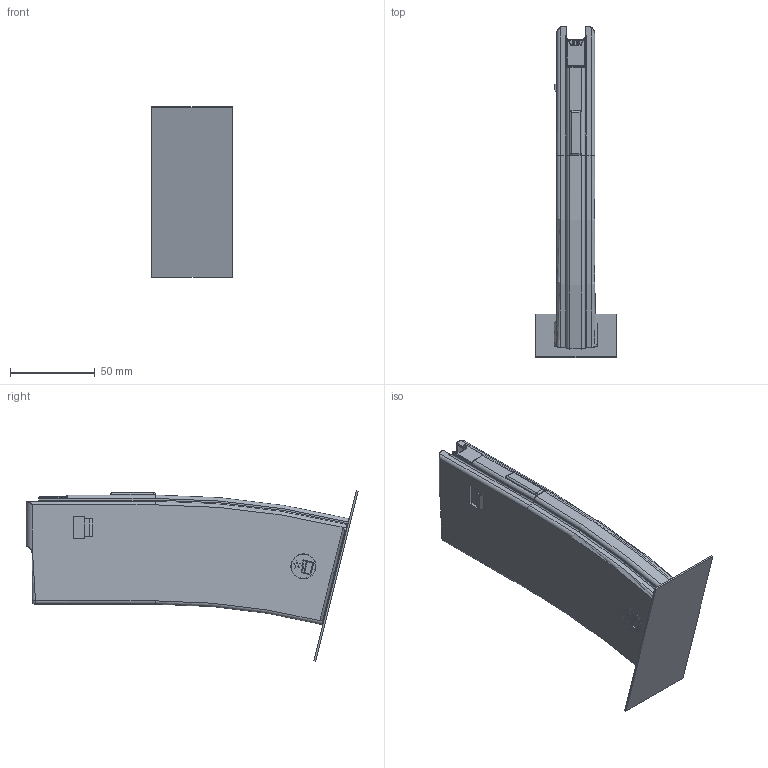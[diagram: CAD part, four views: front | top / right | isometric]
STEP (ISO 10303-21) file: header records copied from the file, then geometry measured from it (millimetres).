
FILE_DESCRIPTION(/* description */ ('STEP AP214'),/* implementation_level */ '2;1');
FILE_NAME(/* name */ 'D:\Ivan''s Printed Mag\Stl\Ivan''s Standard Mag Body.stp',/* time_stamp */ '2019-01-27T20:55:40-06:00',/* author */ ('johne'),/* organization */ (''),/* preprocessor_version */ 'ST-DEVELOPER v16.13',/* originating_system */ 'Autodesk Inventor 2018',/* authorisation */ '');
FILE_SCHEMA (('AUTOMOTIVE_DESIGN { 1 0 10303 214 3 1 1 }'));
Length unit declared in the file: millimetre
Products named in the file (1): doodoo
Bounding box: 47.67 x 196.24 x 100.95 mm (x, y, z)
Volume: 77784.2 mm3; surface area: 70087.1 mm2
Topology: 7 solids, 7 shells, 481 faces, 1229 edges, 748 vertices
Faces by surface type: plane 171, cylinder 152, bspline 97, torus 51, sphere 6, cone 4
Full cylindrical faces by diameter (mm): 14.072 x2
Entity records: 24586 total; most frequent: CARTESIAN_POINT 13493, ORIENTED_EDGE 2414, DIRECTION 2187, EDGE_CURVE 1207, AXIS2_PLACEMENT_3D 801, VERTEX_POINT 746, LINE 585, VECTOR 585
